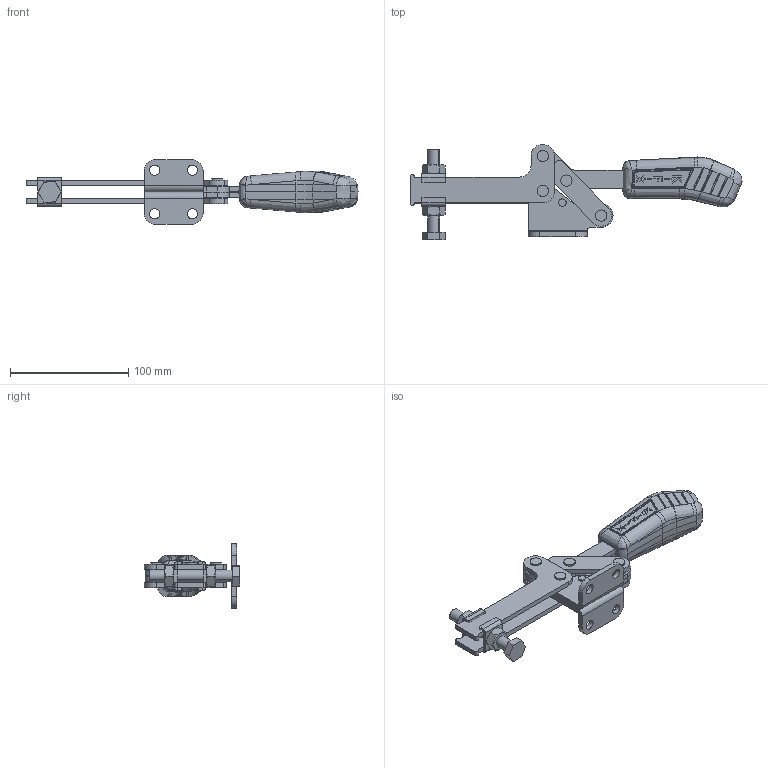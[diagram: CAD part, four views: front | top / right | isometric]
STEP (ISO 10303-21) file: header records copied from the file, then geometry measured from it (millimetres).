
FILE_DESCRIPTION (( 'STEP AP203' ), '1' );
FILE_NAME ('KF-531 DL.STEP', '2014-08-18T14:37:49', ( 'Ricardo' ), ( '' ), 'SwSTEP 2.0', 'SolidWorks 2013', '' );
FILE_SCHEMA (( 'CONFIG_CONTROL_DESIGN' ));
Length unit declared in the file: millimetre
Products named in the file (13): 02.12035_Direita; 06.50026; 02.12035_Esquerda; 07.60002; 01.10043; 14.10003; 03.13050; 12.50021; 08.10008; 11.50003; 17.50002; 3670000087; KF-531 DL
Assembly tree (27 placements, depth 2):
  KF-531 DL
    02.12035_Direita
    02.12035_Esquerda
    01.10043  x2
    03.13050  x2
    08.10008  x2
    06.50026  x4
    07.60002
    14.10003  x2
    12.50021
    11.50003  x2
    17.50002  x8
    3670000087
Bounding box: 281.19 x 80.75 x 55 mm (x, y, z)
Volume: 185044.2 mm3; surface area: 81570.3 mm2
Topology: 27 solids, 27 shells, 809 faces, 1970 edges, 1225 vertices
Faces by surface type: plane 273, cylinder 230, bspline 159, cone 92, sphere 52, torus 3
Entity records: 23452 total; most frequent: CARTESIAN_POINT 8867, ORIENTED_EDGE 2926, DIRECTION 2282, EDGE_CURVE 1463, VERTEX_POINT 924, AXIS2_PLACEMENT_3D 872, EDGE_LOOP 651, ADVANCED_FACE 587
